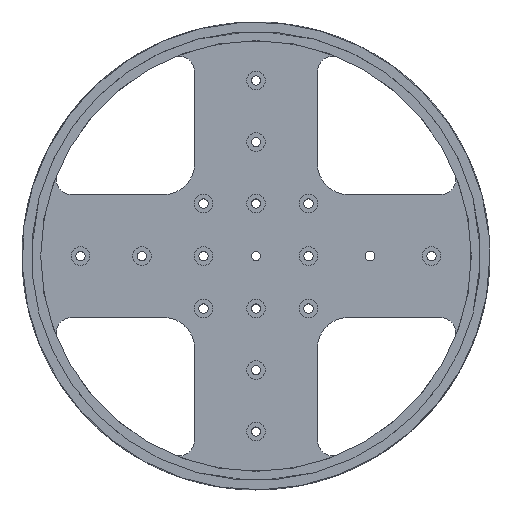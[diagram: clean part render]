
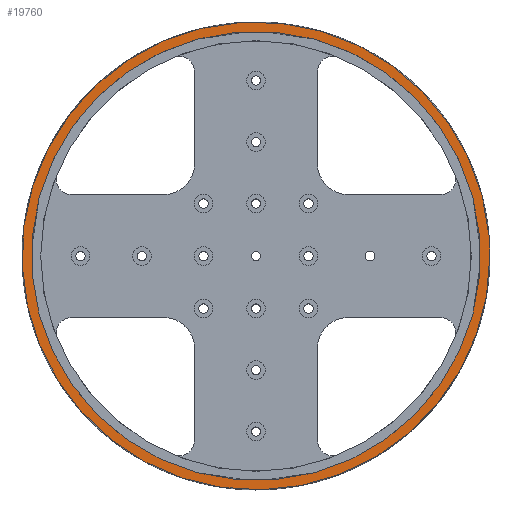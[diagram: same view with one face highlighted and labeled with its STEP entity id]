
A CAD part, top view. The second image highlights one B-rep face of the part: STEP entity #19760.
In plain terms, the highlighted planar face has unit normal (0, 0, 1).
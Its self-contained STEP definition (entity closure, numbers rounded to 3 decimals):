
#1078=PLANE('',#21519);
#1428=FACE_BOUND('',#3147,.T.);
#1684=FACE_OUTER_BOUND('',#3146,.T.);
#3146=EDGE_LOOP('',(#14510,#14511));
#3147=EDGE_LOOP('',(#14512,#14513));
#6905=CIRCLE('',#20794,76.067);
#6906=CIRCLE('',#20795,76.067);
#7385=CIRCLE('',#21520,73.);
#7386=CIRCLE('',#21521,73.);
#7389=VERTEX_POINT('',#23576);
#7390=VERTEX_POINT('',#23577);
#8782=VERTEX_POINT('',#29864);
#8783=VERTEX_POINT('',#29865);
#9365=EDGE_CURVE('',#7389,#7390,#6905,.T.);
#9366=EDGE_CURVE('',#7390,#7389,#6906,.T.);
#10993=EDGE_CURVE('',#8782,#8783,#7385,.T.);
#10994=EDGE_CURVE('',#8783,#8782,#7386,.T.);
#14510=ORIENTED_EDGE('',*,*,#9365,.T.);
#14511=ORIENTED_EDGE('',*,*,#9366,.T.);
#14512=ORIENTED_EDGE('',*,*,#10993,.T.);
#14513=ORIENTED_EDGE('',*,*,#10994,.T.);
#19760=ADVANCED_FACE('',(#1684,#1428),#1078,.T.);
#20794=AXIS2_PLACEMENT_3D('',#23578,#21676,#21677);
#20795=AXIS2_PLACEMENT_3D('',#23579,#21678,#21679);
#21519=AXIS2_PLACEMENT_3D('',#29863,#23267,#23268);
#21520=AXIS2_PLACEMENT_3D('',#29866,#23269,#23270);
#21521=AXIS2_PLACEMENT_3D('',#29867,#23271,#23272);
#21676=DIRECTION('center_axis',(0.,0.,1.));
#21677=DIRECTION('ref_axis',(0.996,0.087,0.));
#21678=DIRECTION('center_axis',(0.,0.,1.));
#21679=DIRECTION('ref_axis',(0.996,0.087,0.));
#23267=DIRECTION('center_axis',(0.,0.,1.));
#23268=DIRECTION('ref_axis',(1.,0.,0.));
#23269=DIRECTION('center_axis',(0.,0.,-1.));
#23270=DIRECTION('ref_axis',(-0.996,-0.087,0.));
#23271=DIRECTION('center_axis',(0.,0.,-1.));
#23272=DIRECTION('ref_axis',(-0.996,-0.087,0.));
#23576=CARTESIAN_POINT('',(75.777,6.63,17.));
#23577=CARTESIAN_POINT('',(76.067,0.,17.));
#23578=CARTESIAN_POINT('Origin',(0.,0.,17.));
#23579=CARTESIAN_POINT('Origin',(0.,0.,17.));
#29863=CARTESIAN_POINT('Origin',(0.,0.,17.));
#29864=CARTESIAN_POINT('',(72.722,6.362,17.));
#29865=CARTESIAN_POINT('',(-72.722,-6.362,17.));
#29866=CARTESIAN_POINT('Origin',(0.,0.,17.));
#29867=CARTESIAN_POINT('Origin',(0.,0.,17.));
